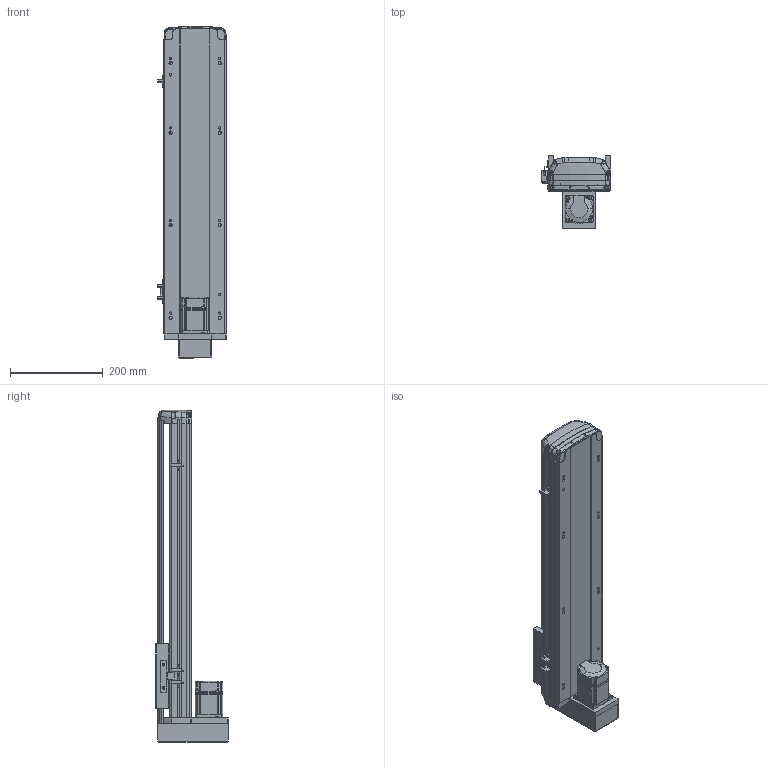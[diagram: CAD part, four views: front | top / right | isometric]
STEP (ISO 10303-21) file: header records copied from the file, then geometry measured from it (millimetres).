
FILE_DESCRIPTION (( 'STEP AP214' ), '1' );
FILE_NAME ('RTH14-XX-450-M-M20-C4.STEP', '2025-10-25T02:48:42', ( 'Microsoft' ), ( 'Microsoft' ), 'SwSTEP 2.0', 'SolidWorks 2018', '' );
FILE_SCHEMA (( 'AUTOMOTIVE_DESIGN' ));
Length unit declared in the file: millimetre
Products named in the file (10): N_RTH14-M-007P奻裔^RTH14-XX-XX-M-M20-C4; RTH14-XX-450-M-M20-C4; N_RTH13-M-008萇儂啣狟殏^RTH14-XX-XX-M-M20-C4; N_RTH13-M-018裔赽^RTH14-XX-XX-M-M20-C4; N_OMRON EE-SX672 传感器^RTH14-XX-XX-M-M20-C4; N_RTH14-GY-001P^RTH14-XX-XX-M-M20-C4; N_RTH13-L-012感应片（外置）^RTH14-XX-XX-M-M20-C4; N_MSMD022P1AA_200W^RTH14-XX-XX-M-M20-C4; N_RTH14-R-004-SFSR16賑釱^RTH14-XX-XX-M-M20-C4; N_RTH14-M-011P菁釱^RTH14-XX-XX-M-M20-C4
Assembly tree (11 placements, depth 2):
  RTH14-XX-450-M-M20-C4
    N_RTH14-M-011P菁釱^RTH14-XX-XX-M-M20-C4
    N_RTH14-M-007P奻裔^RTH14-XX-XX-M-M20-C4
    N_MSMD022P1AA_200W^RTH14-XX-XX-M-M20-C4
    N_RTH13-M-008萇儂啣狟殏^RTH14-XX-XX-M-M20-C4
    N_RTH13-M-018裔赽^RTH14-XX-XX-M-M20-C4
    N_RTH13-L-012感应片（外置）^RTH14-XX-XX-M-M20-C4
    N_OMRON EE-SX672 传感器^RTH14-XX-XX-M-M20-C4  x3
    N_RTH14-R-004-SFSR16賑釱^RTH14-XX-XX-M-M20-C4
    N_RTH14-GY-001P^RTH14-XX-XX-M-M20-C4
Bounding box: 148.5 x 156.5 x 717.37 mm (x, y, z)
Volume: 3356339.7 mm3; surface area: 780080.4 mm2
Topology: 11 solids, 11 shells, 1861 faces, 5198 edges, 3404 vertices
Faces by surface type: plane 993, cylinder 474, bspline 345, cone 45, torus 4
Entity records: 56664 total; most frequent: CARTESIAN_POINT 22905, ORIENTED_EDGE 7464, DIRECTION 5961, EDGE_CURVE 3732, VERTEX_POINT 2440, VECTOR 2159, LINE 2159, AXIS2_PLACEMENT_3D 1901
